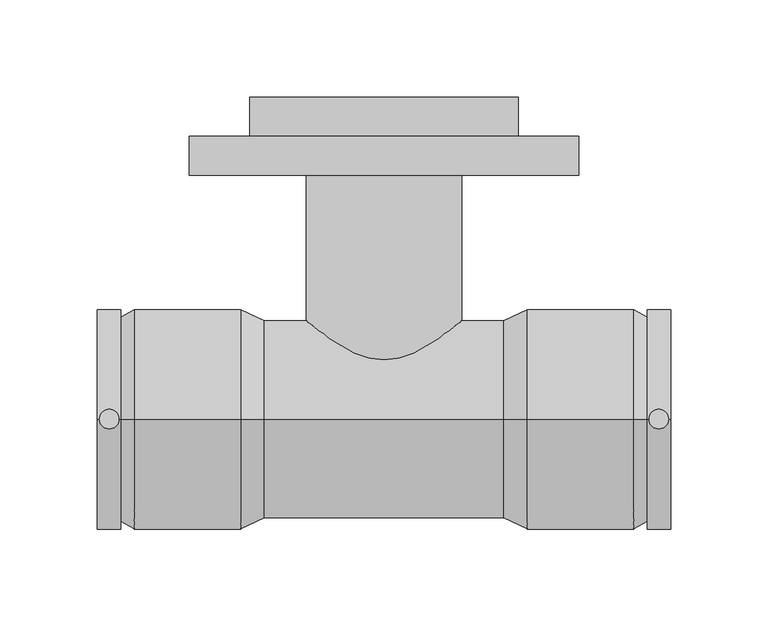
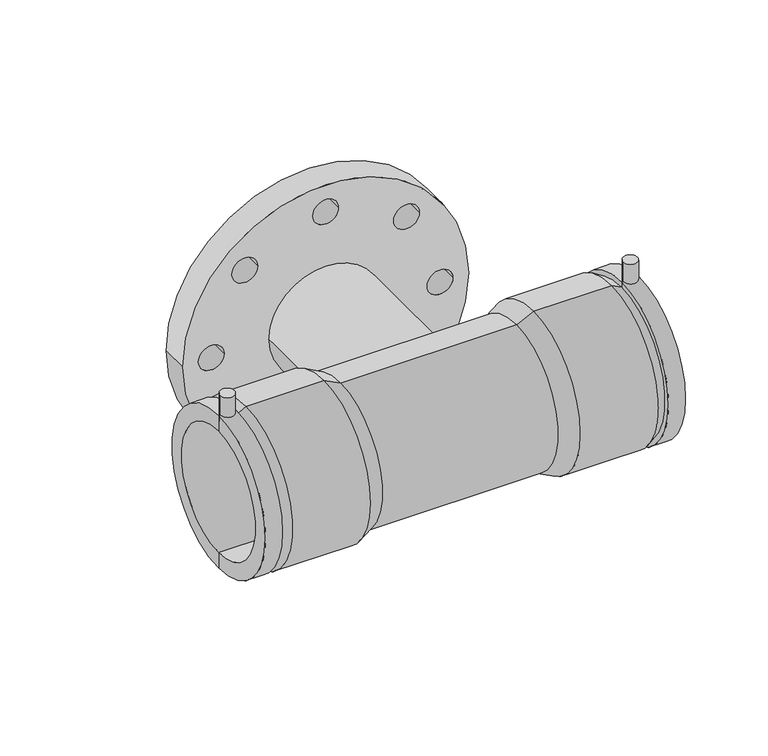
"""IFC4 building model written with IfcOpenShell, lengths in millimetres: pipe fitting geometry, Plumbing_Pipe-Fittings_Plasson_Flanged-Tee_499404 : Plumbing_Pipe-Fittings_Plasson_Flanged-Tee_499404."""

from ifc_helpers import new_model, si_unit, point, frame, frame_2d, origin, origin_2d, place, context, project, spatial, polyline, circle_curve, trimmed, segment, composite_curve, outline, extrude, source, transform, mapped, element, save
from ifc_brep_helpers import plane_surface, cylinder_surface, revolved_surface, advanced_brep


def pipe_fitting_a4dbb267(model_context):
    return source(origin(), model_context, "Body", "SolidModel", [
        extrude(outline(composite_curve([segment(trimmed(circle_curve(origin_2d(), 100.0), [point((0.0, -100.0))], [point((0.0, 100.0))], False, "CARTESIAN"), True, "CONTINUOUS"), segment(trimmed(circle_curve(origin_2d(), 100.0), [point((0.0, 100.0))], [point((0.0, -100.0))], False, "CARTESIAN"), True, "CONTINUOUS")], self_intersect=False), holes=[composite_curve([segment(trimmed(circle_curve(frame_2d((0.0, -80.0)), 9.0), [point((0.0, -89.0))], [point((0.0, -71.0))], True, "CARTESIAN"), True, "CONTINUOUS"), segment(trimmed(circle_curve(frame_2d((0.0, -80.0)), 9.0), [point((0.0, -71.0))], [point((0.0, -89.0))], True, "CARTESIAN"), True, "CONTINUOUS")], self_intersect=False), composite_curve([segment(trimmed(circle_curve(frame_2d((56.5685425, -56.5685425)), 9.0), [point((56.5685425, -47.5685425))], [point((56.5685425, -65.5685425))], True, "CARTESIAN"), True, "CONTINUOUS"), segment(trimmed(circle_curve(frame_2d((56.5685425, -56.5685425)), 9.0), [point((56.5685425, -65.5685425))], [point((56.5685425, -47.5685425))], True, "CARTESIAN"), True, "CONTINUOUS")], self_intersect=False), composite_curve([segment(trimmed(circle_curve(frame_2d((0.0, 80.0)), 9.0), [point((0.0, 89.0))], [point((0.0, 71.0))], True, "CARTESIAN"), True, "CONTINUOUS"), segment(trimmed(circle_curve(frame_2d((0.0, 80.0)), 9.0), [point((0.0, 71.0))], [point((0.0, 89.0))], True, "CARTESIAN"), True, "CONTINUOUS")], self_intersect=False), composite_curve([segment(trimmed(circle_curve(frame_2d((56.5685425, 56.5685425)), 9.0), [point((56.5685425, 65.5685425))], [point((56.5685425, 47.5685425))], True, "CARTESIAN"), True, "CONTINUOUS"), segment(trimmed(circle_curve(frame_2d((56.5685425, 56.5685425)), 9.0), [point((56.5685425, 47.5685425))], [point((56.5685425, 65.5685425))], True, "CARTESIAN"), True, "CONTINUOUS")], self_intersect=False), composite_curve([segment(trimmed(circle_curve(frame_2d((80.0, 0.0)), 9.0), [point((80.0, 9.0))], [point((80.0, -9.0))], True, "CARTESIAN"), True, "CONTINUOUS"), segment(trimmed(circle_curve(frame_2d((80.0, 0.0)), 9.0), [point((80.0, -9.0))], [point((80.0, 9.0))], True, "CARTESIAN"), True, "CONTINUOUS")], self_intersect=False), composite_curve([segment(trimmed(circle_curve(frame_2d((-56.5685425, -56.5685425)), 9.0), [point((-56.5685425, -47.5685425))], [point((-56.5685425, -65.5685425))], True, "CARTESIAN"), True, "CONTINUOUS"), segment(trimmed(circle_curve(frame_2d((-56.5685425, -56.5685425)), 9.0), [point((-56.5685425, -65.5685425))], [point((-56.5685425, -47.5685425))], True, "CARTESIAN"), True, "CONTINUOUS")], self_intersect=False), composite_curve([segment(trimmed(circle_curve(frame_2d((-56.5685425, 56.5685425)), 9.0), [point((-56.5685425, 65.5685425))], [point((-56.5685425, 47.5685425))], True, "CARTESIAN"), True, "CONTINUOUS"), segment(trimmed(circle_curve(frame_2d((-56.5685425, 56.5685425)), 9.0), [point((-56.5685425, 47.5685425))], [point((-56.5685425, 65.5685425))], True, "CARTESIAN"), True, "CONTINUOUS")], self_intersect=False), composite_curve([segment(trimmed(circle_curve(frame_2d((-80.0, 0.0)), 9.0), [point((-80.0, 9.0))], [point((-80.0, -9.0))], True, "CARTESIAN"), True, "CONTINUOUS"), segment(trimmed(circle_curve(frame_2d((-80.0, 0.0)), 9.0), [point((-80.0, -9.0))], [point((-80.0, 9.0))], True, "CARTESIAN"), True, "CONTINUOUS")], self_intersect=False)]), frame((0.0, 125.0, 0.0), z_axis=(0.0, 1.0, 0.0), x_axis=(0.0, 0.0, 1.0)), (0.0, 0.0, 1.0), 20.0),
        advanced_brep(
        [(40.0, 0.0, 0.0), (-40.0, 0.0, 0.0), (-40.0, 145.0, 0.0), (40.0, 145.0, 0.0), (0.0, 0.0, 0.0), (-69.0, 165.0, 0.0), (69.0, 165.0, 0.0), (-69.0, 145.0, 0.0), (69.0, 145.0, 0.0)],
        [
            (0, 1, circle_curve(frame((0.0, 0.0, 0.0), z_axis=(0.0, 1.0, 0.0), x_axis=(-1.0, 0.0, 0.0)), 40.0)),
            (1, 2),
            (2, 3, circle_curve(frame((0.0, 145.0, 0.0), z_axis=(0.0, -1.0, 0.0), x_axis=(-1.0, 0.0, 0.0)), 40.0)),
            (3, 0),
            (1, 0, circle_curve(frame((0.0, 0.0, 0.0), z_axis=(0.0, 1.0, 0.0), x_axis=(-1.0, 0.0, 0.0)), 40.0)),
            (3, 2, circle_curve(frame((0.0, 145.0, 0.0), z_axis=(0.0, -1.0, 0.0), x_axis=(-1.0, 0.0, 0.0)), 40.0)),
            (0, 4),
            (4, 1),
            (5, 6, circle_curve(frame((0.0, 165.0, 0.0), z_axis=(0.0, 1.0, 0.0), x_axis=(1.0, 0.0, 0.0)), 69.0)),
            (6, 5, circle_curve(frame((0.0, 165.0, 0.0), z_axis=(0.0, 1.0, 0.0), x_axis=(1.0, 0.0, 0.0)), 69.0)),
            (7, 8, circle_curve(frame((0.0, 145.0, 0.0), z_axis=(0.0, -1.0, 0.0), x_axis=(1.0, 0.0, 0.0)), 69.0)),
            (8, 7, circle_curve(frame((0.0, 145.0, 0.0), z_axis=(0.0, -1.0, 0.0), x_axis=(1.0, 0.0, 0.0)), 69.0)),
            (7, 5),
            (6, 8),
        ],
        [
            cylinder_surface(frame((0.0, 165.0, 0.0), z_axis=(0.0, -1.0, 0.0), x_axis=(-1.0, 0.0, 0.0)), 40.0),
            plane_surface(frame((0.0, 0.0, 0.0), z_axis=(0.0, -1.0, 0.0), x_axis=(-1.0, 0.0, 0.0))),
            plane_surface(frame((0.0, 165.0, 0.0), z_axis=(0.0, 1.0, 0.0), x_axis=(-1.0, 0.0, 0.0))),
            plane_surface(frame((69.0, 145.0, 0.0), z_axis=(0.0, -1.0, 0.0), x_axis=(0.0, 0.0, 1.0))),
            cylinder_surface(frame((0.0, 165.0, 0.0), z_axis=(0.0, -1.0, 0.0), x_axis=(1.0, 0.0, 0.0)), 69.0),
        ],
        [
            (0, [[1, 2, 3, 4]]),
            (0, [[5, -4, 6, -2]]),
            (1, [[-1, 7, 8]]),
            (1, [[-5, -8, -7]]),
            (2, [[9, 10]]),
            (3, [[11, 12], [-3, -6]]),
            (4, [[-11, 13, -10, 14]]),
            (4, [[-12, -14, -9, -13]]),
        ],
    ),
        advanced_brep(
        [(-76.0, 0.0, -45.0), (-76.0, 0.0, 45.0), (-147.0, 0.0, 45.0), (-147.0, 0.0, -45.0), (-76.0, 0.0, 0.0), (76.0, 0.0, -45.0), (76.0, 0.0, 45.0), (76.0, 0.0, 0.0), (147.0, 0.0, -45.0), (147.0, 0.0, 45.0), (147.0, 0.0, -56.5), (147.0, 0.0, 56.5), (135.0, 0.0, -56.5), (135.0, 0.0, 56.5), (135.0, 0.0, -52.6666667), (135.0, 0.0, 52.6666667), (128.0, 0.0, -56.5), (128.0, 0.0, 56.5), (73.5, 0.0, -56.5), (73.5, 0.0, 56.5), (-135.0, 0.0, -52.6666667), (-135.0, 0.0, 52.6666667), (-128.0, 0.0, 56.5), (-128.0, 0.0, -56.5), (-135.0, 0.0, -56.5), (-135.0, 0.0, 56.5), (-147.0, 0.0, -56.5), (-147.0, 0.0, 56.5), (-73.5, 0.0, 56.5), (-73.5, 0.0, -56.5), (61.5, 0.0, -50.75), (61.5, 0.0, 50.75), (-61.5, 0.0, -50.75), (-61.5, 0.0, 50.75)],
        [
            (0, 1, circle_curve(frame((-76.0, 0.0, 0.0), z_axis=(1.0, 0.0, 0.0), x_axis=(0.0, 0.0, 1.0)), 45.0)),
            (1, 2),
            (2, 3, circle_curve(frame((-147.0, 0.0, 0.0), z_axis=(-1.0, 0.0, 0.0), x_axis=(0.0, 0.0, 1.0)), 45.0)),
            (3, 0),
            (1, 0, circle_curve(frame((-76.0, 0.0, 0.0), z_axis=(1.0, 0.0, 0.0), x_axis=(0.0, 0.0, 1.0)), 45.0)),
            (3, 2, circle_curve(frame((-147.0, 0.0, 0.0), z_axis=(-1.0, 0.0, 0.0), x_axis=(0.0, 0.0, 1.0)), 45.0)),
            (4, 1),
            (0, 4),
            (5, 6, circle_curve(frame((76.0, 0.0, 0.0), z_axis=(1.0, 0.0, 0.0), x_axis=(0.0, 0.0, 1.0)), 45.0)),
            (6, 7),
            (7, 5),
            (6, 5, circle_curve(frame((76.0, 0.0, 0.0), z_axis=(1.0, 0.0, 0.0), x_axis=(0.0, 0.0, 1.0)), 45.0)),
            (8, 9, circle_curve(frame((147.0, 0.0, 0.0), z_axis=(1.0, 0.0, 0.0), x_axis=(0.0, 0.0, 1.0)), 45.0)),
            (9, 6),
            (5, 8),
            (9, 8, circle_curve(frame((147.0, 0.0, 0.0), z_axis=(1.0, 0.0, 0.0), x_axis=(0.0, 0.0, 1.0)), 45.0)),
            (10, 11, circle_curve(frame((147.0, 0.0, 0.0), z_axis=(1.0, 0.0, 0.0), x_axis=(0.0, 0.0, 1.0)), 56.5)),
            (11, 9),
            (8, 10),
            (11, 10, circle_curve(frame((147.0, 0.0, 0.0), z_axis=(1.0, 0.0, 0.0), x_axis=(0.0, 0.0, 1.0)), 56.5)),
            (12, 13, circle_curve(frame((135.0, 0.0, 0.0), z_axis=(1.0, 0.0, 0.0), x_axis=(0.0, 0.0, 1.0)), 56.5)),
            (13, 11),
            (10, 12),
            (13, 12, circle_curve(frame((135.0, 0.0, 0.0), z_axis=(1.0, 0.0, 0.0), x_axis=(0.0, 0.0, 1.0)), 56.5)),
            (14, 15, circle_curve(frame((135.0, 0.0, 0.0), z_axis=(1.0, 0.0, 0.0), x_axis=(0.0, 0.0, 1.0)), 52.6666667)),
            (15, 13),
            (12, 14),
            (15, 14, circle_curve(frame((135.0, 0.0, 0.0), z_axis=(1.0, 0.0, 0.0), x_axis=(0.0, 0.0, 1.0)), 52.6666667)),
            (16, 17, circle_curve(frame((128.0, 0.0, 0.0), z_axis=(1.0, 0.0, 0.0), x_axis=(0.0, 0.0, 1.0)), 56.5)),
            (17, 15),
            (14, 16),
            (17, 16, circle_curve(frame((128.0, 0.0, 0.0), z_axis=(1.0, 0.0, 0.0), x_axis=(0.0, 0.0, 1.0)), 56.5)),
            (18, 19, circle_curve(frame((73.5, 0.0, 0.0), z_axis=(1.0, 0.0, 0.0), x_axis=(0.0, 0.0, 1.0)), 56.5)),
            (19, 17),
            (16, 18),
            (19, 18, circle_curve(frame((73.5, 0.0, 0.0), z_axis=(1.0, 0.0, 0.0), x_axis=(0.0, 0.0, 1.0)), 56.5)),
            (20, 21, circle_curve(frame((-135.0, 0.0, 0.0), z_axis=(1.0, 0.0, 0.0), x_axis=(0.0, 0.0, 1.0)), 52.6666667)),
            (21, 22),
            (22, 23, circle_curve(frame((-128.0, 0.0, 0.0), z_axis=(-1.0, 0.0, 0.0), x_axis=(0.0, 0.0, 1.0)), 56.5)),
            (23, 20),
            (21, 20, circle_curve(frame((-135.0, 0.0, 0.0), z_axis=(1.0, 0.0, 0.0), x_axis=(0.0, 0.0, 1.0)), 52.6666667)),
            (23, 22, circle_curve(frame((-128.0, 0.0, 0.0), z_axis=(-1.0, 0.0, 0.0), x_axis=(0.0, 0.0, 1.0)), 56.5)),
            (24, 25, circle_curve(frame((-135.0, 0.0, 0.0), z_axis=(1.0, 0.0, 0.0), x_axis=(0.0, 0.0, 1.0)), 56.5)),
            (25, 21),
            (20, 24),
            (25, 24, circle_curve(frame((-135.0, 0.0, 0.0), z_axis=(1.0, 0.0, 0.0), x_axis=(0.0, 0.0, 1.0)), 56.5)),
            (26, 27, circle_curve(frame((-147.0, 0.0, 0.0), z_axis=(1.0, 0.0, 0.0), x_axis=(0.0, 0.0, 1.0)), 56.5)),
            (27, 25),
            (24, 26),
            (27, 26, circle_curve(frame((-147.0, 0.0, 0.0), z_axis=(1.0, 0.0, 0.0), x_axis=(0.0, 0.0, 1.0)), 56.5)),
            (2, 27),
            (26, 3),
            (22, 28),
            (28, 29, circle_curve(frame((-73.5, 0.0, 0.0), z_axis=(-1.0, 0.0, 0.0), x_axis=(0.0, 0.0, 1.0)), 56.5)),
            (29, 23),
            (29, 28, circle_curve(frame((-73.5, 0.0, 0.0), z_axis=(-1.0, 0.0, 0.0), x_axis=(0.0, 0.0, 1.0)), 56.5)),
            (30, 31, circle_curve(frame((61.5, 0.0, 0.0), z_axis=(1.0, 0.0, 0.0), x_axis=(0.0, 0.0, 1.0)), 50.75)),
            (31, 19),
            (18, 30),
            (31, 30, circle_curve(frame((61.5, 0.0, 0.0), z_axis=(1.0, 0.0, 0.0), x_axis=(0.0, 0.0, 1.0)), 50.75)),
            (32, 33, circle_curve(frame((-61.5, 0.0, 0.0), z_axis=(1.0, 0.0, 0.0), x_axis=(0.0, 0.0, 1.0)), 50.75)),
            (33, 31),
            (30, 32),
            (33, 32, circle_curve(frame((-61.5, 0.0, 0.0), z_axis=(1.0, 0.0, 0.0), x_axis=(0.0, 0.0, 1.0)), 50.75)),
            (28, 33),
            (32, 29),
        ],
        [
            revolved_surface(polyline([(-147.0, 0.0, 45.0), (-76.0, 0.0, 45.0)]), (-147.0, 0.0, 0.0), (-1.0, 0.0, 0.0)),
            plane_surface(frame((-76.0, 0.0, 0.0), z_axis=(-1.0, 0.0, 0.0), x_axis=(0.0, 0.0, 1.0))),
            plane_surface(frame((76.0, 0.0, 0.0), z_axis=(1.0, 0.0, 0.0), x_axis=(0.0, 0.0, 1.0))),
            revolved_surface(polyline([(76.0, 0.0, 45.0), (147.0, 0.0, 45.0)]), (-147.0, 0.0, 0.0), (-1.0, 0.0, 0.0)),
            plane_surface(frame((147.0, 0.0, 0.0), z_axis=(1.0, 0.0, 0.0), x_axis=(0.0, 0.0, 1.0))),
            cylinder_surface(frame((-147.0, 0.0, 0.0), z_axis=(-1.0, 0.0, 0.0), x_axis=(0.0, 0.0, 1.0)), 56.5),
            plane_surface(frame((135.0, 0.0, 0.0), z_axis=(-1.0, 0.0, 0.0), x_axis=(0.0, 0.0, 1.0))),
            revolved_surface(polyline([(135.0, 0.0, 52.6666667), (128.0, 0.0, 56.5)]), (-147.0, 0.0, 0.0), (-1.0, 0.0, 0.0)),
            revolved_surface(polyline([(-128.0, 0.0, 56.5), (-135.0, 0.0, 52.6666667)]), (-147.0, 0.0, 0.0), (-1.0, 0.0, 0.0)),
            plane_surface(frame((-135.0, 0.0, 0.0), z_axis=(1.0, 0.0, 0.0), x_axis=(0.0, 0.0, 1.0))),
            plane_surface(frame((-147.0, 0.0, 0.0), z_axis=(-1.0, 0.0, 0.0), x_axis=(0.0, 0.0, 1.0))),
            revolved_surface(polyline([(73.5, 0.0, 56.5), (61.5, 0.0, 50.75)]), (-147.0, 0.0, 0.0), (-1.0, 0.0, 0.0)),
            cylinder_surface(frame((-147.0, 0.0, 0.0), z_axis=(-1.0, 0.0, 0.0), x_axis=(0.0, 0.0, 1.0)), 50.75),
            revolved_surface(polyline([(-61.5, 0.0, 50.75), (-73.5, 0.0, 56.5)]), (-147.0, 0.0, 0.0), (-1.0, 0.0, 0.0)),
        ],
        [
            (0, [[1, 2, 3, 4]]),
            (0, [[5, -4, 6, -2]]),
            (1, [[7, -1, 8]]),
            (1, [[-8, -5, -7]]),
            (2, [[9, 10, 11]]),
            (2, [[12, -11, -10]]),
            (3, [[13, 14, -9, 15]]),
            (3, [[16, -15, -12, -14]]),
            (4, [[17, 18, -13, 19]]),
            (4, [[20, -19, -16, -18]]),
            (5, [[21, 22, -17, 23]]),
            (5, [[24, -23, -20, -22]]),
            (6, [[25, 26, -21, 27]]),
            (6, [[28, -27, -24, -26]]),
            (7, [[29, 30, -25, 31]]),
            (7, [[32, -31, -28, -30]]),
            (5, [[33, 34, -29, 35]]),
            (5, [[36, -35, -32, -34]]),
            (8, [[37, 38, 39, 40]]),
            (8, [[41, -40, 42, -38]]),
            (9, [[43, 44, -37, 45]]),
            (9, [[46, -45, -41, -44]]),
            (5, [[47, 48, -43, 49]]),
            (5, [[50, -49, -46, -48]]),
            (10, [[-3, 51, -47, 52]]),
            (10, [[-6, -52, -50, -51]]),
            (5, [[-39, 53, 54, 55]]),
            (5, [[-42, -55, 56, -53]]),
            (11, [[57, 58, -33, 59]]),
            (11, [[60, -59, -36, -58]]),
            (12, [[61, 62, -57, 63]]),
            (12, [[64, -63, -60, -62]]),
            (13, [[-54, 65, -61, 66]]),
            (13, [[-56, -66, -64, -65]]),
        ],
    ),
        extrude(outline(composite_curve([segment(trimmed(circle_curve(frame_2d((-141.0, 0.0)), 5.0), [point((-146.0, 0.0))], [point((-136.0, 0.0))], False, "CARTESIAN"), True, "CONTINUOUS"), segment(trimmed(circle_curve(frame_2d((-141.0, 0.0)), 5.0), [point((-136.0, 0.0))], [point((-146.0, 0.0))], False, "CARTESIAN"), True, "CONTINUOUS")], self_intersect=False)), frame((0.0, 0.0, 50.75), z_axis=(0.0, 0.0, 1.0), x_axis=(1.0, 0.0, 0.0)), (0.0, 0.0, 1.0), 20.25),
        extrude(outline(composite_curve([segment(trimmed(circle_curve(frame_2d((141.0, 0.0)), 5.0), [point((136.0, 0.0))], [point((146.0, 0.0))], False, "CARTESIAN"), True, "CONTINUOUS"), segment(trimmed(circle_curve(frame_2d((141.0, 0.0)), 5.0), [point((146.0, 0.0))], [point((136.0, 0.0))], False, "CARTESIAN"), True, "CONTINUOUS")], self_intersect=False)), frame((0.0, 0.0, 50.75), z_axis=(0.0, 0.0, 1.0), x_axis=(1.0, 0.0, 0.0)), (0.0, 0.0, 1.0), 20.25),
    ])


if __name__ == "__main__":
    model = new_model("IFC4")
    model_context = context("Model", 3, world=origin())
    ifc_project = project(units=[si_unit("LENGTHUNIT", "METRE", prefix="MILLI")], contexts=[model_context])
    site = spatial("IfcSite", under=ifc_project)
    building = spatial("IfcBuilding", under=site)
    placement = place(None, origin())
    pipe_fitting_shape = pipe_fitting_a4dbb267(model_context)
    element("IfcPipeFitting", 1, ObjectType="Plumbing_Pipe-Fittings_Plasson_Flanged-Tee_499404 : Plumbing_Pipe-Fittings_Plasson_Flanged-Tee_499404", at=placement, inside=building, context=model_context, shape_type="MappedRepresentation", body=[
        mapped(pipe_fitting_shape, transform((0.0, 0.0, 0.0), x_axis=(1.0, 0.0, 0.0), y_axis=(0.0, 1.0, 0.0), z_axis=(0.0, 0.0, 1.0))),
    ])
    save(model, "model.ifc")
